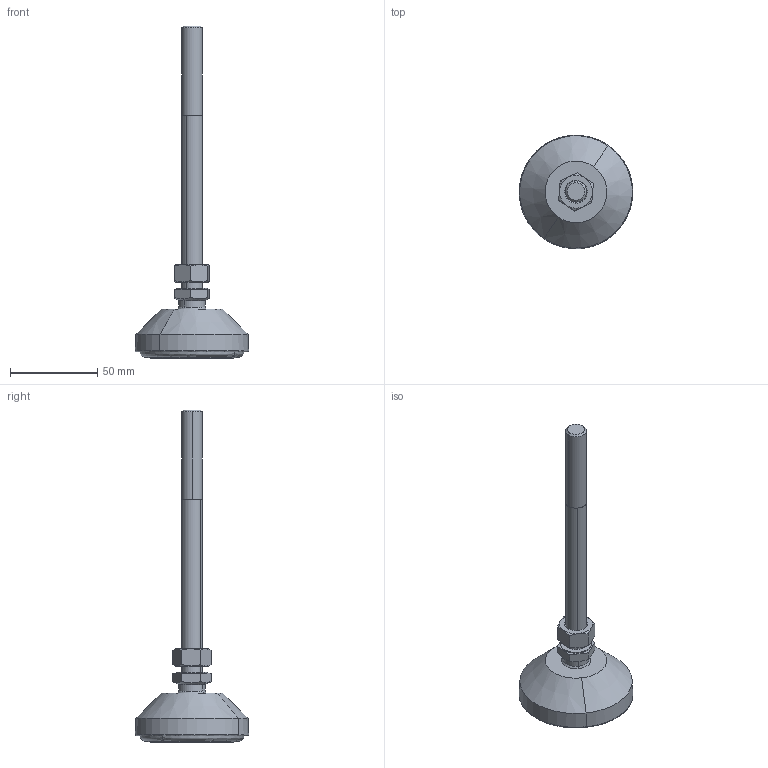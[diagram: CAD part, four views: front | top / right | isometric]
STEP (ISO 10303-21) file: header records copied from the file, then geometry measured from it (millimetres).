
FILE_DESCRIPTION (( 'STEP AP203' ), '1' );
FILE_NAME ('DY-U6512150.STEP', '2022-03-08T03:31:22', ( '' ), ( '' ), 'SwSTEP 2.0', 'SolidWorks 2017', '' );
FILE_SCHEMA (( 'CONFIG_CONTROL_DESIGN' ));
Length unit declared in the file: millimetre
Products named in the file (1): DY-U6512150
Bounding box: 64.86 x 64.83 x 189.77 mm (x, y, z)
Surface area: 20214.2 mm2 (no closed solid volume)
Topology: 0 solids, 6 shells, 93 faces, 215 edges, 139 vertices
Faces by surface type: plane 33, bspline 29, cone 18, cylinder 12, sphere 1
Entity records: 3696 total; most frequent: CARTESIAN_POINT 1838, ORIENTED_EDGE 400, DIRECTION 301, EDGE_CURVE 211, VERTEX_POINT 137, AXIS2_PLACEMENT_3D 118, EDGE_LOOP 109, FACE_OUTER_BOUND 93
